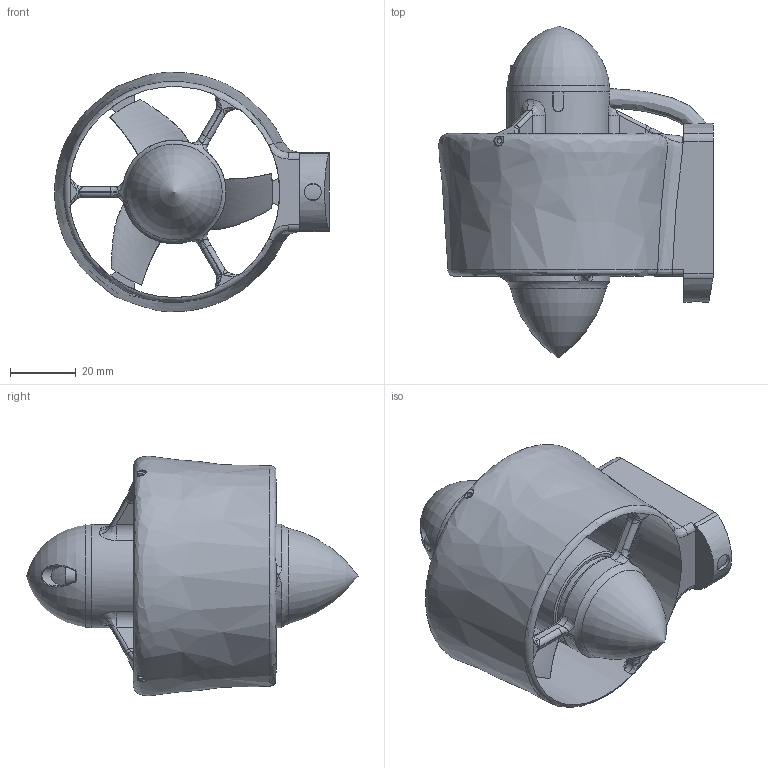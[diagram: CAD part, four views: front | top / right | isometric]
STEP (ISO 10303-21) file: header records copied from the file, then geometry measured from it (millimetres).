
FILE_DESCRIPTION (( 'STEP AP203' ), '1' );
FILE_NAME ('2216芢輛ん蚾饜.STEP', '2024-10-12T07:15:18', ( '' ), ( '' ), 'SwSTEP 2.0', 'SolidWorks 2021', '' );
FILE_SCHEMA (( 'CONFIG_CONTROL_DESIGN' ));
Length unit declared in the file: millimetre
Products named in the file (1): 2216芢輛ん蚾饜
Bounding box: 83.25 x 100.63 x 72.57 mm (x, y, z)
Volume: 103788.1 mm3; surface area: 35851.9 mm2
Topology: 1 solids, 10 shells, 347 faces, 838 edges, 511 vertices
Faces by surface type: cylinder 133, plane 107, bspline 70, torus 35, cone 2
Full cylindrical faces by diameter (mm): 1.6 x3, 2.4 x3, 3 x4, 5 x2, 5.4 x4, 28.681 x2, 30.056 x2, 31.356 x3, 64 x1
Entity records: 18071 total; most frequent: CARTESIAN_POINT 10885, ORIENTED_EDGE 1520, DIRECTION 1359, EDGE_CURVE 760, AXIS2_PLACEMENT_3D 554, VERTEX_POINT 484, EDGE_LOOP 408, FACE_OUTER_BOUND 379
